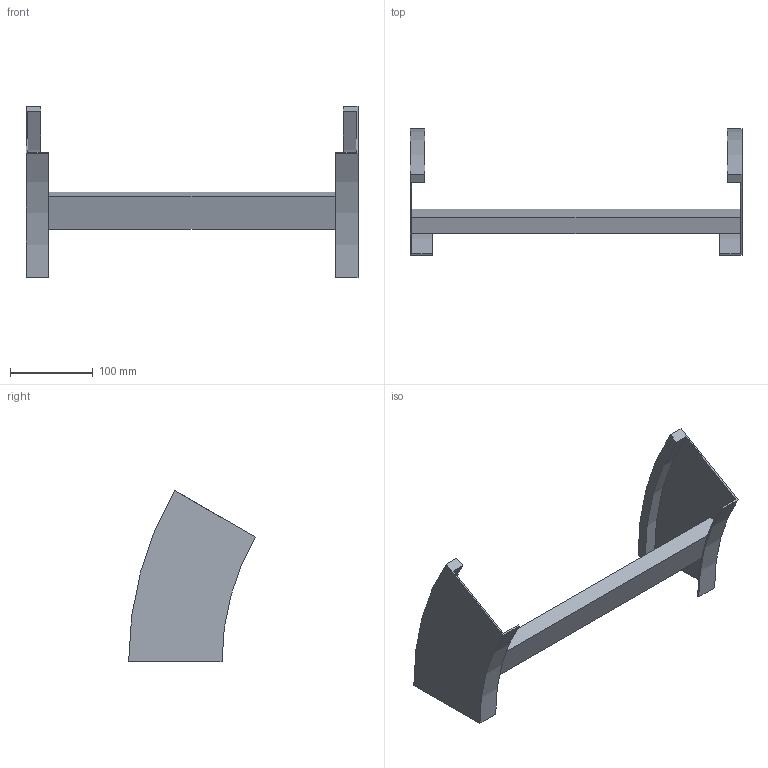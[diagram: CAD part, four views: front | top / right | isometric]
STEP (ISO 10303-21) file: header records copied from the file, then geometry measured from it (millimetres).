
FILE_DESCRIPTION (( 'STEP AP214' ), '1' );
FILE_NAME ('B2_35B3J400.step', '2025-02-21T14:48:38', ( '' ), ( '' ), 'SwSTEP 2.0', 'SolidWorks 2023', '' );
FILE_SCHEMA (( 'AUTOMOTIVE_DESIGN' ));
Length unit declared in the file: millimetre
Products named in the file (3): B2_LONGH.DISCESA_30°_H112.5_R300; B2_35B3J400; TRAVERSINO_400
Assembly tree (3 placements, depth 2):
  B2_35B3J400
    B2_LONGH.DISCESA_30°_H112.5_R300  x2
    TRAVERSINO_400
Bounding box: 400 x 152.69 x 206.25 mm (x, y, z)
Volume: 502191.4 mm3; surface area: 166218 mm2
Topology: 3 solids, 3 shells, 26 faces, 60 edges, 40 vertices
Faces by surface type: plane 18, cylinder 8
Entity records: 544 total; most frequent: DIRECTION 88, CARTESIAN_POINT 82, ORIENTED_EDGE 72, EDGE_CURVE 36, AXIS2_PLACEMENT_3D 30, VECTOR 28, LINE 28, VERTEX_POINT 24
